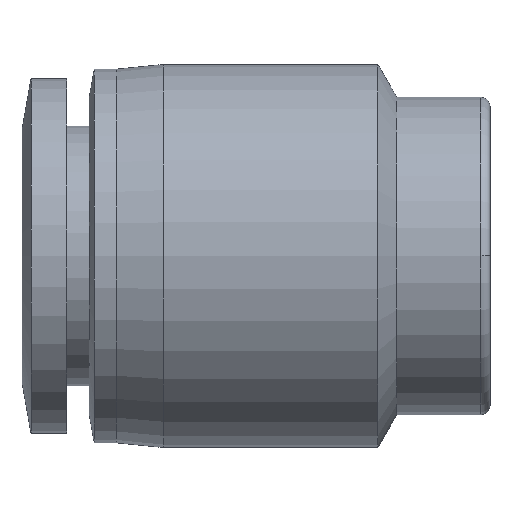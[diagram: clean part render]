
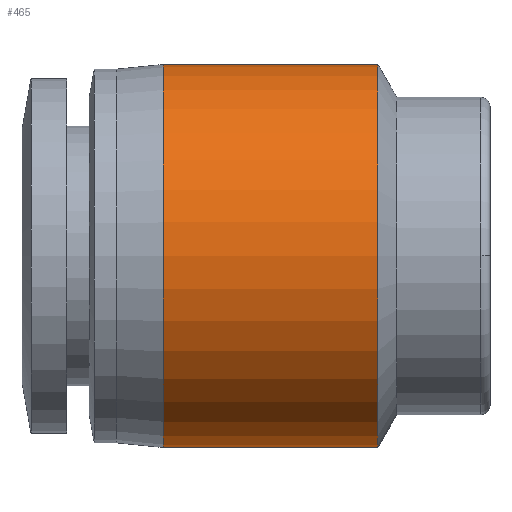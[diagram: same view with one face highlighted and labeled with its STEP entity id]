
A CAD part, top view. The second image highlights one B-rep face of the part: STEP entity #465.
In plain terms, the highlighted cylindrical face has radius 10.25 mm (diameter 20.5 mm), a partial arc.
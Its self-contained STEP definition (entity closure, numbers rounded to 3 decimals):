
#20 = CARTESIAN_POINT ( 'NONE',  ( -17.5, 0., 0. ) ) ;
#95 = DIRECTION ( 'NONE',  ( 1., 0., 0. ) ) ;
#160 = ORIENTED_EDGE ( 'NONE', *, *, #338, .F. ) ;
#172 = AXIS2_PLACEMENT_3D ( 'NONE', #720, #768, #696 ) ;
#175 = CIRCLE ( 'NONE', #514, 10.25 ) ;
#178 = CARTESIAN_POINT ( 'NONE',  ( -17.5, -10.25, 0. ) ) ;
#181 = LINE ( 'NONE', #510, #410 ) ;
#194 = ORIENTED_EDGE ( 'NONE', *, *, #529, .T. ) ;
#197 = AXIS2_PLACEMENT_3D ( 'NONE', #320, #513, #306 ) ;
#225 = EDGE_LOOP ( 'NONE', ( #700, #194, #160, #445 ) ) ;
#299 = VERTEX_POINT ( 'NONE', #308 ) ;
#301 = LINE ( 'NONE', #566, #734 ) ;
#306 = DIRECTION ( 'NONE',  ( 0., 1., 0. ) ) ;
#308 = CARTESIAN_POINT ( 'NONE',  ( -6., -10.25, 0. ) ) ;
#320 = CARTESIAN_POINT ( 'NONE',  ( -11.75, 0., 0. ) ) ;
#326 = EDGE_CURVE ( 'NONE', #762, #431, #181, .T. ) ;
#338 = EDGE_CURVE ( 'NONE', #431, #299, #441, .T. ) ;
#374 = CARTESIAN_POINT ( 'NONE',  ( -6., 10.25, 0. ) ) ;
#410 = VECTOR ( 'NONE', #631, 1000. ) ;
#431 = VERTEX_POINT ( 'NONE', #374 ) ;
#441 = CIRCLE ( 'NONE', #172, 10.25 ) ;
#445 = ORIENTED_EDGE ( 'NONE', *, *, #326, .F. ) ;
#447 = FACE_OUTER_BOUND ( 'NONE', #225, .T. ) ;
#451 = VERTEX_POINT ( 'NONE', #178 ) ;
#465 = ADVANCED_FACE ( 'NONE', ( #447 ), #771, .T. ) ;
#484 = DIRECTION ( 'NONE',  ( 1., 0., 0. ) ) ;
#510 = CARTESIAN_POINT ( 'NONE',  ( -11.75, 10.25, 0. ) ) ;
#513 = DIRECTION ( 'NONE',  ( 1., 0., 0. ) ) ;
#514 = AXIS2_PLACEMENT_3D ( 'NONE', #20, #484, #624 ) ;
#529 = EDGE_CURVE ( 'NONE', #451, #299, #301, .T. ) ;
#548 = EDGE_CURVE ( 'NONE', #762, #451, #175, .T. ) ;
#566 = CARTESIAN_POINT ( 'NONE',  ( -11.75, -10.25, 0. ) ) ;
#624 = DIRECTION ( 'NONE',  ( 0., 1., 0. ) ) ;
#631 = DIRECTION ( 'NONE',  ( 1., 0., 0. ) ) ;
#696 = DIRECTION ( 'NONE',  ( 0., 1., 0. ) ) ;
#700 = ORIENTED_EDGE ( 'NONE', *, *, #548, .T. ) ;
#720 = CARTESIAN_POINT ( 'NONE',  ( -6., 0., 0. ) ) ;
#734 = VECTOR ( 'NONE', #95, 1000. ) ;
#741 = CARTESIAN_POINT ( 'NONE',  ( -17.5, 10.25, 0. ) ) ;
#762 = VERTEX_POINT ( 'NONE', #741 ) ;
#768 = DIRECTION ( 'NONE',  ( 1., 0., 0. ) ) ;
#771 = CYLINDRICAL_SURFACE ( 'NONE', #197, 10.25 ) ;
